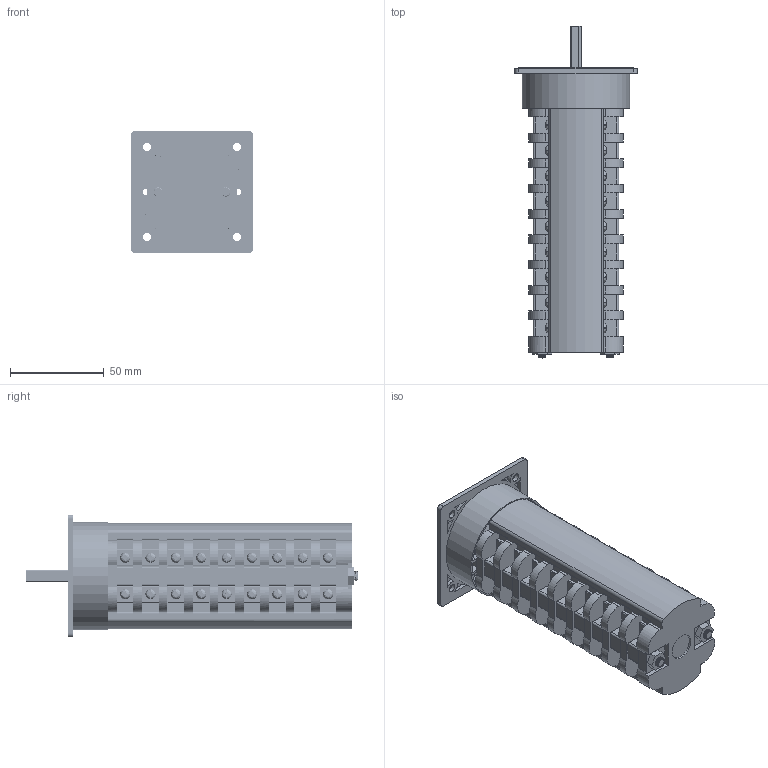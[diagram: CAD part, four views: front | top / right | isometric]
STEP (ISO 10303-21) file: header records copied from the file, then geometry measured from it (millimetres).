
FILE_DESCRIPTION(/* description */ (''),/* implementation_level */ '2;1');
FILE_NAME(/* name */ '4G16,25_standard_9_korpusow.stp',/* time_stamp */ '2021-07-21T14:07:11+02:00',/* author */ (''),/* organization */ (''),/* preprocessor_version */ 'ST-DEVELOPER v18.1',/* originating_system */ 'SIEMENS PLM Software NX 1965',/* authorisation */ '');
FILE_SCHEMA (('AUTOMOTIVE_DESIGN { 1 0 10303 214 3 1 1 1 }'));
Products named in the file (1): 4G16,25_standard_9_korpusow_stp
Bounding box: 65 x 176.7 x 65 mm (x, y, z)
Volume: 298266.9 mm3; surface area: 67559.8 mm2
Topology: 1 solids, 5 shells, 1840 faces, 5169 edges, 3417 vertices
Faces by surface type: plane 1094, cylinder 503, bspline 170, cone 73
Full cylindrical faces by diameter (mm): 3.3 x3, 4 x4, 4.3 x4, 5 x2, 5.4 x36, 6.5 x2, 7.2 x4, 10 x1, 14 x1, 57 x1
Entity records: 170213 total; most frequent: CARTESIAN_POINT 125054, ORIENTED_EDGE 9968, DIRECTION 8481, EDGE_CURVE 4984, VERTEX_POINT 3332, AXIS2_PLACEMENT_3D 3027, LINE 2427, VECTOR 2427
